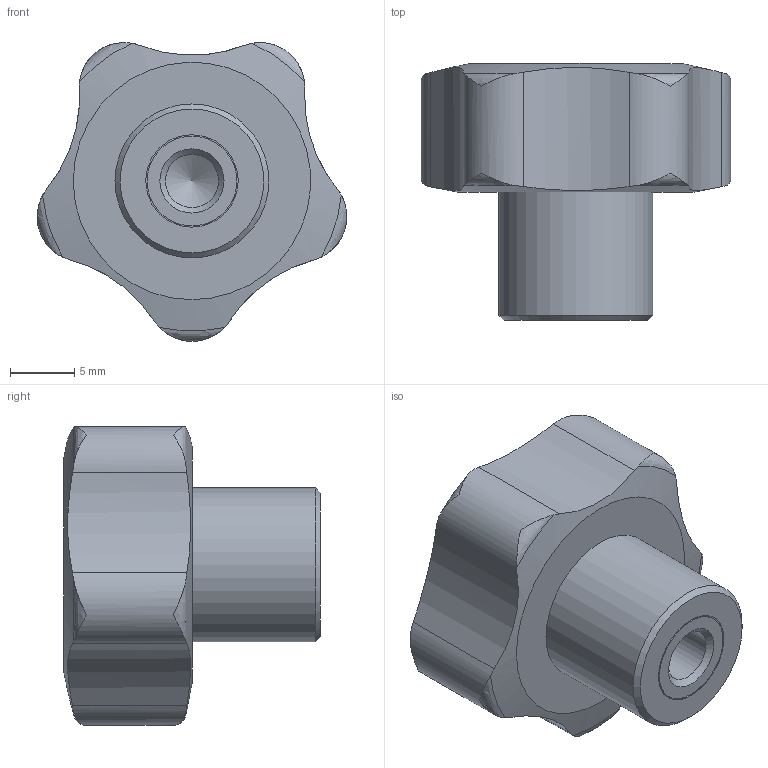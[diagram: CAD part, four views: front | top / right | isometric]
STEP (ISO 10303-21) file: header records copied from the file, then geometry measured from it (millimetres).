
FILE_DESCRIPTION( ( 'STEP AP203' ), '1' );
FILE_NAME( 'C:/Temp/Ganter_Step_05_03_2020/data/2_2/gn_5337_4/gn_5337_4_b/Star knob GN 5337.4-25-M5.stp', '2020-03-05T12:09:32', ( 'License CC BY-ND 4.0' ), ( 'CADENAS' ), ' ', 'PARTsolutions', ' ' );
FILE_SCHEMA( ( 'CONFIG_CONTROL_DESIGN' ) );
Length unit declared in the file: millimetre
Products named in the file (1): _Star knob GN 5337.4-25-M5
Bounding box: 24.11 x 20 x 23.28 mm (x, y, z)
Volume: 4651.1 mm3; surface area: 1980.9 mm2
Topology: 1 solids, 1 shells, 34 faces, 97 edges, 67 vertices
Faces by surface type: cylinder 14, torus 10, cone 4, plane 4, bspline 1, sphere 1
Full cylindrical faces by diameter (mm): 4.134 x1, 7 x1, 7.2 x1, 12 x1
Entity records: 1421 total; most frequent: CARTESIAN_POINT 630, ORIENTED_EDGE 164, DIRECTION 122, EDGE_CURVE 82, VERTEX_POINT 64, AXIS2_PLACEMENT_3D 56, B_SPLINE_CURVE_WITH_KNOTS 50, EDGE_LOOP 46
